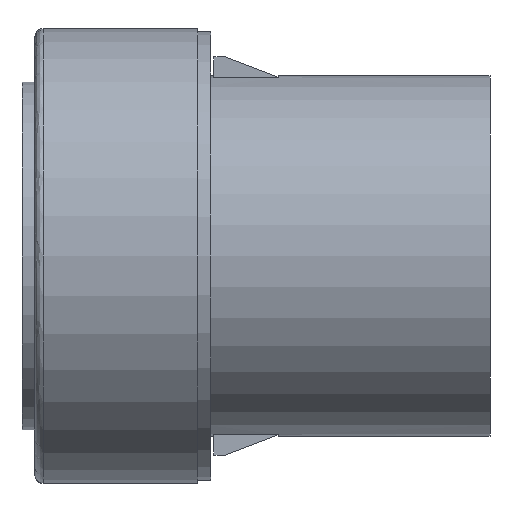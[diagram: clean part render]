
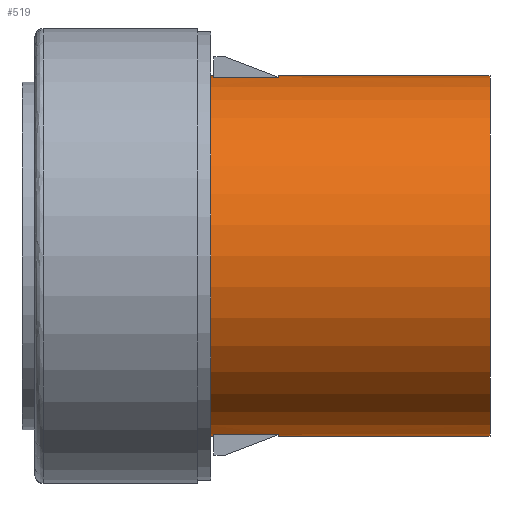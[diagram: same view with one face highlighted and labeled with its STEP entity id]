
A CAD part, left-side view. The second image highlights one B-rep face of the part: STEP entity #519.
In plain terms, the highlighted cylindrical face has radius 11.1 mm (diameter 22.2 mm), a partial arc.
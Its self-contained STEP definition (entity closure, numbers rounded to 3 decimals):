
#11 = EDGE_CURVE ( 'NONE', #903, #723, #548, .T. ) ;
#19 = VERTEX_POINT ( 'NONE', #840 ) ;
#61 = LINE ( 'NONE', #335, #488 ) ;
#65 = ORIENTED_EDGE ( 'NONE', *, *, #11, .T. ) ;
#80 = EDGE_CURVE ( 'NONE', #434, #910, #843, .T. ) ;
#100 = FACE_OUTER_BOUND ( 'NONE', #588, .T. ) ;
#103 = AXIS2_PLACEMENT_3D ( 'NONE', #223, #763, #295 ) ;
#108 = DIRECTION ( 'NONE',  ( 0., 0., 1. ) ) ;
#120 = ORIENTED_EDGE ( 'NONE', *, *, #822, .T. ) ;
#134 = ORIENTED_EDGE ( 'NONE', *, *, #241, .T. ) ;
#139 = EDGE_CURVE ( 'NONE', #694, #207, #691, .T. ) ;
#159 = ORIENTED_EDGE ( 'NONE', *, *, #353, .T. ) ;
#161 = DIRECTION ( 'NONE',  ( 0., 0., 1. ) ) ;
#166 = DIRECTION ( 'NONE',  ( 0., 1., 0. ) ) ;
#172 = CIRCLE ( 'NONE', #271, 11.1 ) ;
#176 = LINE ( 'NONE', #324, #849 ) ;
#177 = CARTESIAN_POINT ( 'NONE',  ( 0., -28., 0. ) ) ;
#184 = CARTESIAN_POINT ( 'NONE',  ( 0., -10.8, -11.1 ) ) ;
#190 = LINE ( 'NONE', #609, #628 ) ;
#205 = CIRCLE ( 'NONE', #397, 11.1 ) ;
#207 = VERTEX_POINT ( 'NONE', #673 ) ;
#223 = CARTESIAN_POINT ( 'NONE',  ( 0., -15., 0. ) ) ;
#238 = LINE ( 'NONE', #635, #647 ) ;
#241 = EDGE_CURVE ( 'NONE', #489, #327, #350, .T. ) ;
#247 = CARTESIAN_POINT ( 'NONE',  ( 0., -11., 0. ) ) ;
#259 = ORIENTED_EDGE ( 'NONE', *, *, #454, .T. ) ;
#269 = CARTESIAN_POINT ( 'NONE',  ( 0., -15., 11.1 ) ) ;
#271 = AXIS2_PLACEMENT_3D ( 'NONE', #247, #785, #312 ) ;
#280 = EDGE_CURVE ( 'NONE', #694, #327, #190, .T. ) ;
#284 = EDGE_CURVE ( 'NONE', #207, #504, #238, .T. ) ;
#294 = CIRCLE ( 'NONE', #103, 11.1 ) ;
#295 = DIRECTION ( 'NONE',  ( 0., 0., 1. ) ) ;
#299 = CARTESIAN_POINT ( 'NONE',  ( -1.55, -15., -10.991 ) ) ;
#301 = ORIENTED_EDGE ( 'NONE', *, *, #745, .T. ) ;
#312 = DIRECTION ( 'NONE',  ( 0., 0., 1. ) ) ;
#322 = DIRECTION ( 'NONE',  ( 0., 1., 0. ) ) ;
#324 = CARTESIAN_POINT ( 'NONE',  ( 0., -28., 11.1 ) ) ;
#327 = VERTEX_POINT ( 'NONE', #676 ) ;
#335 = CARTESIAN_POINT ( 'NONE',  ( -1.55, -28., 10.991 ) ) ;
#350 = CIRCLE ( 'NONE', #503, 11.1 ) ;
#353 = EDGE_CURVE ( 'NONE', #610, #489, #701, .T. ) ;
#356 = CARTESIAN_POINT ( 'NONE',  ( 0., -11., 11.1 ) ) ;
#370 = CARTESIAN_POINT ( 'NONE',  ( 0., -11., -11.1 ) ) ;
#382 = DIRECTION ( 'NONE',  ( 0., -1., 0. ) ) ;
#387 = CARTESIAN_POINT ( 'NONE',  ( -1.55, -15., 10.991 ) ) ;
#397 = AXIS2_PLACEMENT_3D ( 'NONE', #682, #382, #108 ) ;
#411 = AXIS2_PLACEMENT_3D ( 'NONE', #697, #693, #689 ) ;
#432 = CARTESIAN_POINT ( 'NONE',  ( 0., -28., -11.1 ) ) ;
#434 = VERTEX_POINT ( 'NONE', #370 ) ;
#452 = CARTESIAN_POINT ( 'NONE',  ( -1.55, -11., -10.991 ) ) ;
#454 = EDGE_CURVE ( 'NONE', #723, #19, #176, .T. ) ;
#460 = VECTOR ( 'NONE', #521, 1000. ) ;
#488 = VECTOR ( 'NONE', #870, 1000. ) ;
#489 = VERTEX_POINT ( 'NONE', #299 ) ;
#503 = AXIS2_PLACEMENT_3D ( 'NONE', #626, #624, #620 ) ;
#504 = VERTEX_POINT ( 'NONE', #269 ) ;
#519 = ADVANCED_FACE ( 'NONE', ( #100 ), #564, .T. ) ;
#521 = DIRECTION ( 'NONE',  ( 0., -1., 0. ) ) ;
#548 = CIRCLE ( 'NONE', #559, 11.1 ) ;
#552 = CARTESIAN_POINT ( 'NONE',  ( -1.55, -28., -10.991 ) ) ;
#559 = AXIS2_PLACEMENT_3D ( 'NONE', #844, #838, #831 ) ;
#564 = CYLINDRICAL_SURFACE ( 'NONE', #573, 11.1 ) ;
#573 = AXIS2_PLACEMENT_3D ( 'NONE', #177, #166, #161 ) ;
#582 = DIRECTION ( 'NONE',  ( 0., 1., 0. ) ) ;
#588 = EDGE_LOOP ( 'NONE', ( #664, #875, #805, #916, #120, #65, #259, #301, #787, #747, #159, #134 ) ) ;
#603 = DIRECTION ( 'NONE',  ( 0., 1., 0. ) ) ;
#607 = VECTOR ( 'NONE', #806, 1000. ) ;
#609 = CARTESIAN_POINT ( 'NONE',  ( 0., -28., -11.1 ) ) ;
#610 = VERTEX_POINT ( 'NONE', #452 ) ;
#620 = DIRECTION ( 'NONE',  ( 0., 0., 1. ) ) ;
#624 = DIRECTION ( 'NONE',  ( 0., -1., 0. ) ) ;
#626 = CARTESIAN_POINT ( 'NONE',  ( 0., -15., 0. ) ) ;
#628 = VECTOR ( 'NONE', #603, 1000. ) ;
#635 = CARTESIAN_POINT ( 'NONE',  ( 0., -28., 11.1 ) ) ;
#645 = CARTESIAN_POINT ( 'NONE',  ( -1.55, -11., 10.991 ) ) ;
#647 = VECTOR ( 'NONE', #582, 1000. ) ;
#664 = ORIENTED_EDGE ( 'NONE', *, *, #280, .F. ) ;
#673 = CARTESIAN_POINT ( 'NONE',  ( 0., -28., 11.1 ) ) ;
#676 = CARTESIAN_POINT ( 'NONE',  ( 0., -15., -11.1 ) ) ;
#682 = CARTESIAN_POINT ( 'NONE',  ( 0., -10.8, 0. ) ) ;
#689 = DIRECTION ( 'NONE',  ( 0., 0., 1. ) ) ;
#691 = CIRCLE ( 'NONE', #411, 11.1 ) ;
#693 = DIRECTION ( 'NONE',  ( 0., 1., 0. ) ) ;
#694 = VERTEX_POINT ( 'NONE', #432 ) ;
#697 = CARTESIAN_POINT ( 'NONE',  ( 0., -28., 0. ) ) ;
#701 = LINE ( 'NONE', #552, #460 ) ;
#712 = EDGE_CURVE ( 'NONE', #897, #504, #294, .T. ) ;
#723 = VERTEX_POINT ( 'NONE', #356 ) ;
#745 = EDGE_CURVE ( 'NONE', #19, #910, #205, .T. ) ;
#747 = ORIENTED_EDGE ( 'NONE', *, *, #835, .T. ) ;
#763 = DIRECTION ( 'NONE',  ( 0., 1., 0. ) ) ;
#785 = DIRECTION ( 'NONE',  ( 0., 1., 0. ) ) ;
#787 = ORIENTED_EDGE ( 'NONE', *, *, #80, .F. ) ;
#805 = ORIENTED_EDGE ( 'NONE', *, *, #284, .T. ) ;
#806 = DIRECTION ( 'NONE',  ( 0., 1., 0. ) ) ;
#816 = CARTESIAN_POINT ( 'NONE',  ( 0., -28., -11.1 ) ) ;
#822 = EDGE_CURVE ( 'NONE', #897, #903, #61, .T. ) ;
#831 = DIRECTION ( 'NONE',  ( 0., 0., 1. ) ) ;
#835 = EDGE_CURVE ( 'NONE', #434, #610, #172, .T. ) ;
#838 = DIRECTION ( 'NONE',  ( 0., 1., 0. ) ) ;
#840 = CARTESIAN_POINT ( 'NONE',  ( 0., -10.8, 11.1 ) ) ;
#843 = LINE ( 'NONE', #816, #607 ) ;
#844 = CARTESIAN_POINT ( 'NONE',  ( 0., -11., 0. ) ) ;
#849 = VECTOR ( 'NONE', #322, 1000. ) ;
#870 = DIRECTION ( 'NONE',  ( 0., 1., 0. ) ) ;
#875 = ORIENTED_EDGE ( 'NONE', *, *, #139, .T. ) ;
#897 = VERTEX_POINT ( 'NONE', #387 ) ;
#903 = VERTEX_POINT ( 'NONE', #645 ) ;
#910 = VERTEX_POINT ( 'NONE', #184 ) ;
#916 = ORIENTED_EDGE ( 'NONE', *, *, #712, .F. ) ;
